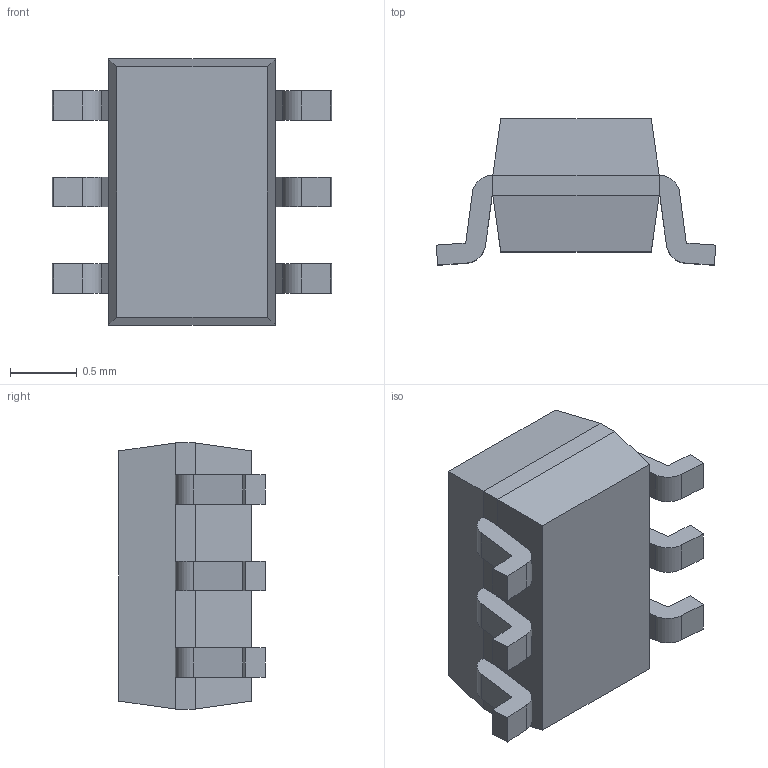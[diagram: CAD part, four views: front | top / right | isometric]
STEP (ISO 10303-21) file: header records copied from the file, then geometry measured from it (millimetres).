
FILE_DESCRIPTION (( 'STEP AP214' ), '1' );
FILE_NAME ('SN74LVC1G3157.STEP', '2023-05-17T12:23:37', ( '' ), ( '' ), 'SwSTEP 2.0', 'SolidWorks 2021', '' );
FILE_SCHEMA (( 'AUTOMOTIVE_DESIGN' ));
Length unit declared in the file: millimetre
Products named in the file (1): SN74LVC1G3157
Bounding box: 2.1 x 1.1 x 2 mm (x, y, z)
Volume: 2.5 mm3; surface area: 14.8 mm2
Topology: 8 solids, 8 shells, 93 faces, 220 edges, 144 vertices
Faces by surface type: plane 65, cylinder 28
Entity records: 2763 total; most frequent: DIRECTION 464, CARTESIAN_POINT 458, ORIENTED_EDGE 440, EDGE_CURVE 220, LINE 164, VECTOR 164, AXIS2_PLACEMENT_3D 150, VERTEX_POINT 144
